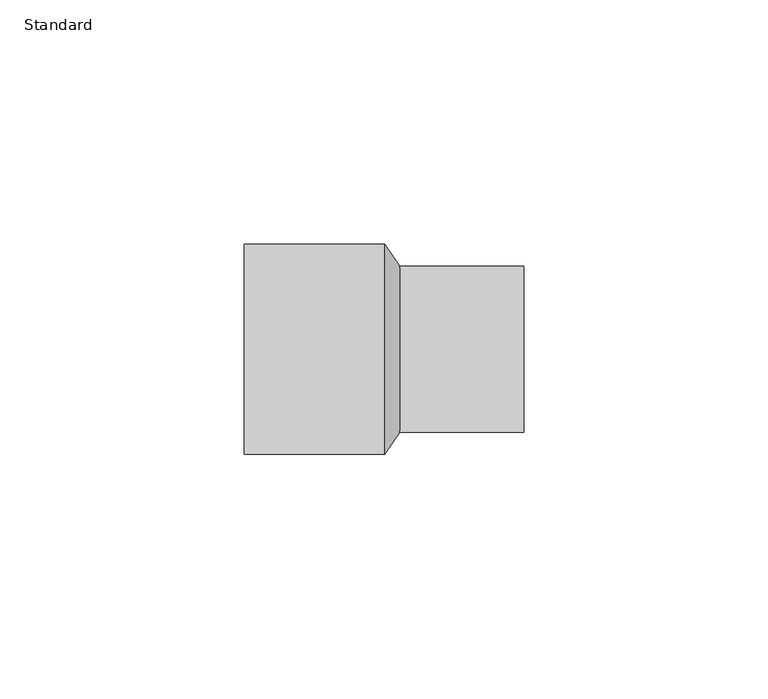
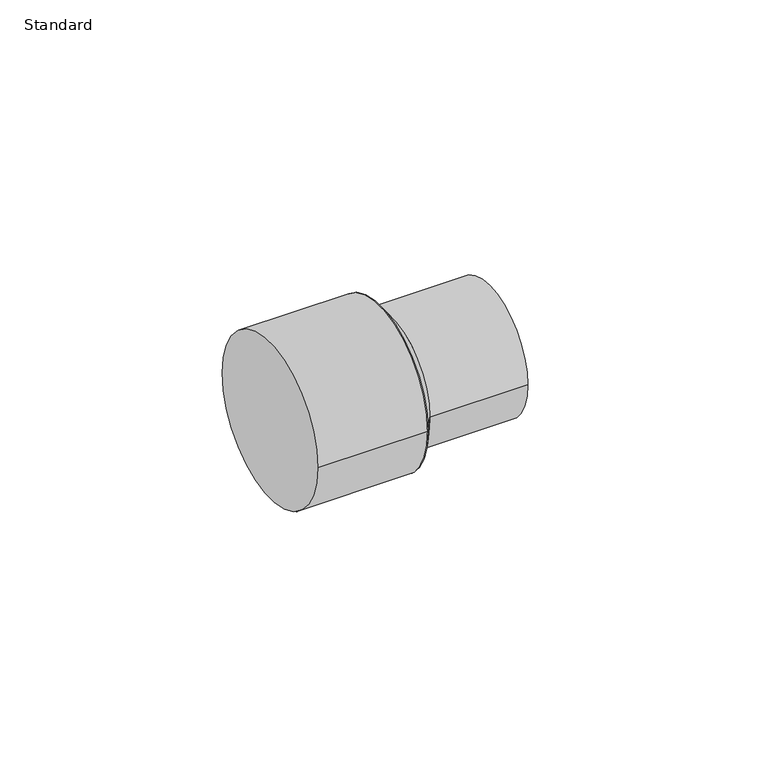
"""IFC4 building model written with IfcOpenShell, lengths in millimetres: pipe fitting geometry, M_Coupling Reducing - CPVC - Sch 40 : Standard."""

import ifcopenshell
import ifcopenshell.guid

model = None  # the IFC model being written
_history = None  # IfcOwnerHistory: only IFC2X3 demands one
_inside = {}  # id of a spatial element -> (the spatial element, [elements in it])
_under = {}  # id of a project, library or spatial element -> (it, [spatial elements below it])
_declared = {}  # id of a project -> (the project, [libraries it declares])
_typed = {}  # id of a type object -> (the type object, [elements of that type])
_made_of = {}  # id of a material, layer set ... -> (it, [elements and type objects made of it])


def new_model(schema):
    """Start an empty IFC model of exactly this schema.

    Asked for "IFC4X3", IfcOpenShell would pick the latest addendum, in which some entities
    have other attributes; the version numbers below select the first issue.
    IFC2X3 requires an IfcOwnerHistory on every rooted entity: one is made here for all.
    """
    global model, _history
    if schema == "IFC4X3":
        model = ifcopenshell.file(schema_version=(4, 3, 0, 0))
    else:
        model = ifcopenshell.file(schema=schema)
    _inside.clear()
    _under.clear()
    _declared.clear()
    _typed.clear()
    _made_of.clear()
    _history = None
    if model.schema == "IFC2X3":
        org = make("IfcOrganization", Name="unknown")
        user = make(
            "IfcPersonAndOrganization",
            ThePerson=make("IfcPerson", FamilyName="unknown"),
            TheOrganization=org,
        )
        app = make(
            "IfcApplication",
            ApplicationDeveloper=org,
            Version="unknown",
            ApplicationFullName="unknown",
            ApplicationIdentifier="unknown",
        )
        _history = make(
            "IfcOwnerHistory",
            OwningUser=user,
            OwningApplication=app,
            ChangeAction="ADDED",
            CreationDate=0,
        )
    return model


def make(cls, **values):
    """One entity of the class cls with the attributes given. An attribute that is None is left unset."""
    return model.create_entity(
        cls, **{name: value for name, value in values.items() if value is not None}
    )


def rooted(cls, **values):
    """An entity with a GlobalId (a new one), such as an element, a storey or a relation."""
    return make(cls, GlobalId=ifcopenshell.guid.new(), OwnerHistory=_history, **values)


def si_unit(unit_type, name, prefix=None):
    """IfcSIUnit, for example si_unit("LENGTHUNIT", "METRE", prefix="MILLI")."""
    return make("IfcSIUnit", UnitType=unit_type, Prefix=prefix, Name=name)


def assignment(units):
    """IfcUnitAssignment: the units of a project."""
    return None if units is None else make("IfcUnitAssignment", Units=units)


def point(xyz):
    """IfcCartesianPoint."""
    return None if xyz is None else make("IfcCartesianPoint", Coordinates=xyz)


def direction(xyz):
    """IfcDirection."""
    return None if xyz is None else make("IfcDirection", DirectionRatios=xyz)


def frame(location, z_axis=None, x_axis=None):
    """IfcAxis2Placement3D, a coordinate frame: its origin and axes. An axis left out is left unset."""
    return make(
        "IfcAxis2Placement3D",
        Location=point(location),
        Axis=direction(z_axis),
        RefDirection=direction(x_axis),
    )


def frame_2d(location, x_axis=None):
    """IfcAxis2Placement2D, a coordinate frame in the plane: its origin and x axis."""
    return make(
        "IfcAxis2Placement2D", Location=point(location), RefDirection=direction(x_axis)
    )


def origin():
    """The frame at (0, 0, 0) with its axes left unset."""
    return frame((0.0, 0.0, 0.0))


def origin_2d():
    """The frame at (0, 0) in the plane with its x axis left unset."""
    return frame_2d((0.0, 0.0))


def place(relative_to, where):
    """IfcLocalPlacement: puts the frame where relative to a parent placement (None: the world)."""
    return make(
        "IfcLocalPlacement", PlacementRelTo=relative_to, RelativePlacement=where
    )


def context(
    kind, dimensions, precision=None, world=None, true_north=None, identifier=None
):
    """IfcGeometricRepresentationContext, for example the 3D "Model" context."""
    return make(
        "IfcGeometricRepresentationContext",
        ContextIdentifier=identifier,
        ContextType=kind,
        CoordinateSpaceDimension=dimensions,
        Precision=precision,
        WorldCoordinateSystem=world,
        TrueNorth=true_north,
    )


def project(units=None, contexts=None):
    """IfcProject with its units and contexts."""
    return rooted(
        "IfcProject",
        Name="project",
        RepresentationContexts=contexts,
        UnitsInContext=assignment(units),
    )


def spatial(cls, under=None, at=None, **own):
    """A site, building, storey or space (cls), placed at a placement, below another one or the project."""
    s = rooted(cls, ObjectPlacement=at, **own)
    if under is not None:
        _under.setdefault(under.id(), (under, []))[1].append(s)
    return s


def polyline(points):
    """IfcPolyline through the points."""
    return make("IfcPolyline", Points=[point(p) for p in points])


def circle_curve(where, radius):
    """IfcCircle in the frame where."""
    return make("IfcCircle", Position=where, Radius=radius)


def trimmed(basis, trim1, trim2, sense, master):
    """IfcTrimmedCurve: the piece of a basis curve between two trims."""
    return make(
        "IfcTrimmedCurve",
        BasisCurve=basis,
        Trim1=trim1,
        Trim2=trim2,
        SenseAgreement=sense,
        MasterRepresentation=master,
    )


def segment(curve, same_sense, transition):
    """IfcCompositeCurveSegment."""
    return make(
        "IfcCompositeCurveSegment",
        Transition=transition,
        SameSense=same_sense,
        ParentCurve=curve,
    )


def composite_curve(segments, self_intersect=None):
    """IfcCompositeCurve: segments joined end to end."""
    return make("IfcCompositeCurve", Segments=segments, SelfIntersect=self_intersect)


def outline(outer, holes=None, kind="AREA"):
    """IfcArbitraryClosedProfileDef: a profile drawn as a closed curve; with holes, ...WithVoids."""
    if holes is None:
        return make("IfcArbitraryClosedProfileDef", ProfileType=kind, OuterCurve=outer)
    return make(
        "IfcArbitraryProfileDefWithVoids",
        ProfileType=kind,
        OuterCurve=outer,
        InnerCurves=holes,
    )


def extrude(swept, where, along, depth):
    """IfcExtrudedAreaSolid: the profile swept, set in the frame where, extruded along a direction by depth."""
    return make(
        "IfcExtrudedAreaSolid",
        SweptArea=swept,
        Position=where,
        ExtrudedDirection=direction(along),
        Depth=depth,
    )


def shape(context_of_items, identifier, shape_type, items):
    """IfcShapeRepresentation: the items that make up one representation, for example the "Body"."""
    return make(
        "IfcShapeRepresentation",
        ContextOfItems=context_of_items,
        RepresentationIdentifier=identifier,
        RepresentationType=shape_type,
        Items=items,
    )


def source(mapping_origin, context_of_items, identifier, shape_type, items):
    """IfcRepresentationMap: a shape defined once, which mapped items show again and again."""
    return make(
        "IfcRepresentationMap",
        MappingOrigin=mapping_origin,
        MappedRepresentation=shape(context_of_items, identifier, shape_type, items),
    )


def transform(
    local_origin,
    x_axis=None,
    y_axis=None,
    z_axis=None,
    scale=None,
    scale2=None,
    scale3=None,
    uniform=True,
):
    """IfcCartesianTransformationOperator3D, or its non-uniform kind. x_axis, y_axis, z_axis: its Axis1, 2, 3."""
    if uniform:
        return make(
            "IfcCartesianTransformationOperator3D",
            Axis1=direction(x_axis),
            Axis2=direction(y_axis),
            LocalOrigin=point(local_origin),
            Scale=scale,
            Axis3=direction(z_axis),
        )
    return make(
        "IfcCartesianTransformationOperator3DnonUniform",
        Axis1=direction(x_axis),
        Axis2=direction(y_axis),
        LocalOrigin=point(local_origin),
        Scale=scale,
        Axis3=direction(z_axis),
        Scale2=scale2,
        Scale3=scale3,
    )


def mapped(mapping_source, mapping_target):
    """IfcMappedItem: shows the shape of a source again, moved by a transform."""
    return make(
        "IfcMappedItem", MappingSource=mapping_source, MappingTarget=mapping_target
    )


def made_of(thing, what):
    """Note that an element or type object is made of a material, layer set ...; save() writes the relation."""
    if what is not None:
        _made_of.setdefault(what.id(), (what, []))[1].append(thing)
    return thing


def element(
    cls,
    number,
    at=None,
    inside=None,
    cuts=None,
    type_object=None,
    material=None,
    context=None,
    identifier="Body",
    shape_type=None,
    held_by="IfcProductDefinitionShape",
    body=None,
    shapes=None,
    **own,
):
    """One element of the class cls, such as IfcWall. Its Tag is "e" and its number.

    at: its placement. inside: the storey or other place that contains it. cuts: it is an
    opening in that element (IfcRelVoidsElement). A single representation is given by context,
    identifier, shape_type and body (its items); several are given by shapes. held_by: the class
    of the entity that holds the representations. save() writes the other relations.
    """
    e = rooted(cls, Tag="e%d" % number, ObjectPlacement=at, **own)
    if body is not None:
        shapes = [shape(context, identifier, shape_type, body)]
    if shapes is not None:
        e.Representation = make(held_by, Representations=shapes)
    if inside is not None:
        _inside.setdefault(inside.id(), (inside, []))[1].append(e)
    if cuts is not None:
        rooted(
            "IfcRelVoidsElement", RelatingBuildingElement=cuts, RelatedOpeningElement=e
        )
    if type_object is not None:
        _typed.setdefault(type_object.id(), (type_object, []))[1].append(e)
    return made_of(e, material)


def aggregate(whole, parts):
    """IfcRelAggregates: a whole, such as a stair, and the parts it consists of."""
    return rooted("IfcRelAggregates", RelatingObject=whole, RelatedObjects=parts)


def save(model, path):
    """Write the relations noted so far, then the file.

    IfcRelAggregates (storeys below a building ...), IfcRelContainedInSpatialStructure (elements
    in a storey), IfcRelDefinesByType, IfcRelAssociatesMaterial and IfcRelDeclares: one each for
    every whole, place, type object, material and project.
    """
    for whole, parts in _under.values():
        aggregate(whole, parts)
    for where, things in _inside.values():
        rooted(
            "IfcRelContainedInSpatialStructure",
            RelatedElements=things,
            RelatingStructure=where,
        )
    for kind, things in _typed.values():
        rooted("IfcRelDefinesByType", RelatedObjects=things, RelatingType=kind)
    for what, things in _made_of.values():
        rooted("IfcRelAssociatesMaterial", RelatedObjects=things, RelatingMaterial=what)
    for by, libraries in _declared.values():
        rooted("IfcRelDeclares", RelatingContext=by, RelatedDefinitions=libraries)
    model.write(path)


def plane_surface(at):
    """IfcPlane: the flat surface through the origin of the frame at, square to its z axis."""
    return make("IfcPlane", Position=at)


def revolved_surface(curve, axis_point, axis_direction):
    """IfcSurfaceOfRevolution: the curve turned about the line through axis_point along axis_direction."""
    return make(
        "IfcSurfaceOfRevolution",
        SweptCurve=make("IfcArbitraryOpenProfileDef", ProfileType="CURVE", Curve=curve),
        AxisPosition=make("IfcAxis1Placement", Location=point(axis_point), Axis=direction(axis_direction)),
    )


def advanced_brep(points, edges, surfaces, faces):
    """IfcAdvancedBrep: a solid bounded by faces that lie on surfaces and meet in shared edges.

    An edge is (start, end): straight between two places in points (the first is 0);
    or (start, end, curve); or (start, end, curve, False) where it runs against its curve.
    A face is (place in surfaces, loops), or (place, loops, False) where it looks against
    its surface's normal. A loop lists edges by number (the first is 1), with a minus sign
    where the edge is run from its end to its start. The first loop is the outer one.
    """
    corners = [point(p) for p in points]
    vertices = [make("IfcVertexPoint", VertexGeometry=c) for c in corners]
    made = []
    for start, end, *more in edges:
        made.append(
            make(
                "IfcEdgeCurve",
                EdgeStart=vertices[start],
                EdgeEnd=vertices[end],
                EdgeGeometry=more[0] if more else make("IfcPolyline", Points=[corners[start], corners[end]]),
                SameSense=more[1] if len(more) > 1 else True,
            )
        )
    hull = []
    for where, loops, *sense in faces:
        bounds = []
        for j, loop in enumerate(loops):
            ring = [make("IfcOrientedEdge", EdgeElement=made[abs(k) - 1], Orientation=k > 0) for k in loop]
            bounds.append(
                make(
                    "IfcFaceOuterBound" if j == 0 else "IfcFaceBound",
                    Bound=make("IfcEdgeLoop", EdgeList=ring),
                    Orientation=True,
                )
            )
        hull.append(make("IfcAdvancedFace", Bounds=bounds, FaceSurface=surfaces[where], SameSense=sense[0] if sense else True))
    return make("IfcAdvancedBrep", Outer=make("IfcClosedShell", CfsFaces=hull))


def standard_e954f56a(model_context):
    return source(origin(), model_context, "Body", "SolidModel", [
        advanced_brep(
        [(31.75, -17.018, 0.0), (31.75, 17.018, 0.0), (28.702, -21.463, 0.0), (28.702, 21.463, 0.0)],
        [
            (0, 1, circle_curve(frame((31.75, 0.0, 0.0), z_axis=(1.0, -4.451994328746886e-12, 0.0), x_axis=(-4.452044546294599e-12, -1.0, 0.0)), 17.018)),
            (1, 0, circle_curve(frame((31.75, 0.0, 0.0), z_axis=(1.0, -4.451994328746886e-12, 0.0), x_axis=(4.452044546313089e-12, 1.0, 0.0)), 17.018)),
            (2, 3, circle_curve(frame((28.702, 0.0, 0.0), z_axis=(-1.0, 4.451994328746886e-12, 0.0), x_axis=(4.452044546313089e-12, 1.0, 0.0)), 21.463)),
            (3, 2, circle_curve(frame((28.702, 0.0, 0.0), z_axis=(-1.0, 4.451994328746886e-12, 0.0), x_axis=(-4.452044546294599e-12, -1.0, 0.0)), 21.463)),
            (3, 1),
            (0, 2),
        ],
        [
            plane_surface(frame((31.75, 0.0, 0.0), z_axis=(1.0, 0.0, 0.0), x_axis=(0.0, 0.0, -1.0))),
            plane_surface(frame((28.702, 0.0, 0.0), z_axis=(-1.0, 0.0, 0.0), x_axis=(0.0, 0.0, -1.0))),
            revolved_surface(polyline([(31.75, -17.01799999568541, 0.0), (28.70199999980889, -21.4630000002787, 0.0)]), (43.4194857, 0.0, 0.0), (-1.0, 4.451994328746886e-12, 0.0)),
            revolved_surface(polyline([(31.75000000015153, 17.01799999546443, 0.0), (28.702, 21.463, 0.0)]), (43.4194857, 0.0, 0.0), (-1.0, 4.451994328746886e-12, 0.0)),
        ],
        [
            (0, [[1, 2]]),
            (1, [[3, 4]]),
            (2, [[-4, 5, -1, 6]]),
            (3, [[-3, -6, -2, -5]]),
        ],
    ),
        extrude(outline(composite_curve([segment(trimmed(circle_curve(origin_2d(), 17.018), [point((-17.018, 0.0))], [point((17.018, 0.0))], False, "CARTESIAN"), True, "CONTINUOUS"), segment(trimmed(circle_curve(origin_2d(), 17.018), [point((17.018, 0.0))], [point((-17.018, 0.0))], False, "CARTESIAN"), True, "CONTINUOUS")], self_intersect=False)), frame((31.75, 0.0, 0.0), z_axis=(1.0, 0.0, 0.0), x_axis=(0.0, 1.0, 0.0)), (0.0, 0.0, 1.0), 25.4),
        extrude(outline(composite_curve([segment(trimmed(circle_curve(origin_2d(), 21.463), [point((-21.463, 0.0))], [point((21.463, 0.0))], False, "CARTESIAN"), True, "CONTINUOUS"), segment(trimmed(circle_curve(origin_2d(), 21.463), [point((21.463, 0.0))], [point((-21.463, 0.0))], False, "CARTESIAN"), True, "CONTINUOUS")], self_intersect=False)), frame((0.0, 0.0, 0.0), z_axis=(1.0, 0.0, 0.0), x_axis=(0.0, 1.0, 0.0)), (0.0, 0.0, 1.0), 28.702),
    ])


if __name__ == "__main__":
    model = new_model("IFC4")
    model_context = context("Model", 3, world=origin())
    ifc_project = project(units=[si_unit("LENGTHUNIT", "METRE", prefix="MILLI")], contexts=[model_context])
    site = spatial("IfcSite", under=ifc_project)
    building = spatial("IfcBuilding", under=site)
    placement = place(None, origin())
    standard_shape = standard_e954f56a(model_context)
    element("IfcPipeFitting", 1, ObjectType="M_Coupling Reducing - CPVC - Sch 40 : Standard", at=placement, inside=building, context=model_context, shape_type="MappedRepresentation", body=[
        mapped(standard_shape, transform((0.0, 0.0, 0.0), x_axis=(1.0, 0.0, 0.0), y_axis=(0.0, 1.0, 0.0), z_axis=(0.0, 0.0, 1.0))),
    ])
    save(model, "model.ifc")
